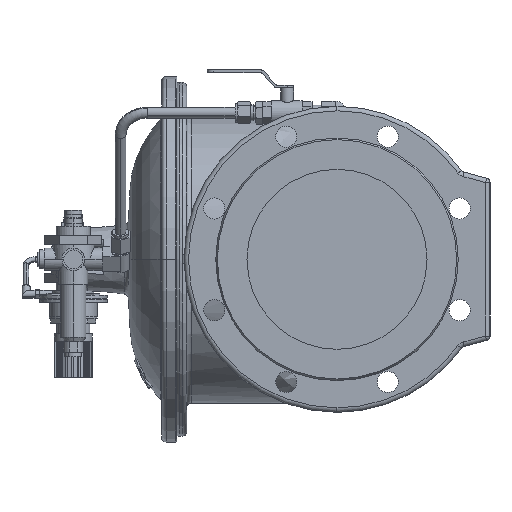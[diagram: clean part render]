
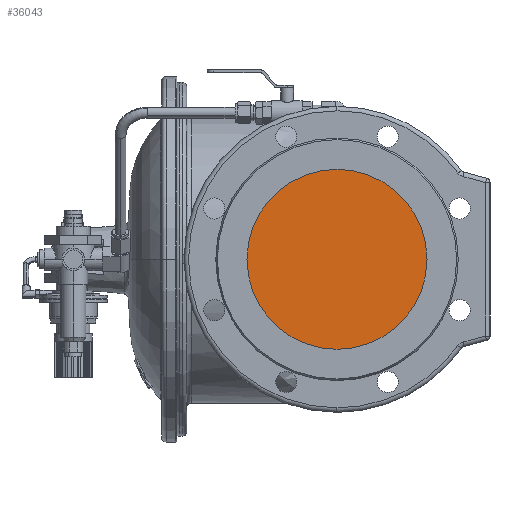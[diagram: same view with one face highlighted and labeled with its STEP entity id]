
A CAD part, left-side view. The second image highlights one B-rep face of the part: STEP entity #36043.
In plain terms, the highlighted planar face has unit normal (-1, 0, 0).
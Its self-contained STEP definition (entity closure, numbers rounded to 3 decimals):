
#3163 = EDGE_CURVE ( 'Defeatured_0_913+Defeatured_0_914+Defeatured_0_914+Defeatured_0_914', #6910, #30690, #17595, .T. ) ;
#4375 = ORIENTED_EDGE ( 'NONE', *, *, #27744, .T. ) ;
#6226 = CARTESIAN_POINT ( 'NONE',  ( -270., 0., 0. ) ) ;
#6402 = EDGE_LOOP ( 'NONE', ( #4375, #21336 ) ) ;
#6760 = CARTESIAN_POINT ( 'NONE',  ( -270., 0., 0. ) ) ;
#6910 = VERTEX_POINT ( 'NONE', #31944 ) ;
#11503 = AXIS2_PLACEMENT_3D ( 'NONE', #20842, #38459, #23632 ) ;
#11924 = DIRECTION ( 'NONE',  ( 0., -1., 0. ) ) ;
#14934 = FACE_OUTER_BOUND ( 'NONE', #6402, .T. ) ;
#17595 = CIRCLE ( 'NONE', #33386, 100. ) ;
#20842 = CARTESIAN_POINT ( 'NONE',  ( -270., 0., 0. ) ) ;
#21336 = ORIENTED_EDGE ( 'NONE', *, *, #3163, .T. ) ;
#23632 = DIRECTION ( 'NONE',  ( 0., -1., 0. ) ) ;
#23932 = AXIS2_PLACEMENT_3D ( 'NONE', #6226, #36313, #27218 ) ;
#24642 = PLANE ( 'NONE',  #23932 ) ;
#26562 = CARTESIAN_POINT ( 'NONE',  ( -270., 100., 0. ) ) ;
#27218 = DIRECTION ( 'NONE',  ( 0., -1., 0. ) ) ;
#27744 = EDGE_CURVE ( 'Defeatured_0_913+Defeatured_0_914+Defeatured_0_914+Defeatured_0_914', #30690, #6910, #28592, .T. ) ;
#28592 = CIRCLE ( 'NONE', #11503, 100. ) ;
#30690 = VERTEX_POINT ( 'NONE', #26562 ) ;
#31944 = CARTESIAN_POINT ( 'NONE',  ( -270., -100., 0. ) ) ;
#33386 = AXIS2_PLACEMENT_3D ( 'NONE', #6760, #36468, #11924 ) ;
#36043 = ADVANCED_FACE ( 'Defeatured_0_913', ( #14934 ), #24642, .T. ) ;
#36313 = DIRECTION ( 'NONE',  ( -1., 0., 0. ) ) ;
#36468 = DIRECTION ( 'NONE',  ( -1., 0., 0. ) ) ;
#38459 = DIRECTION ( 'NONE',  ( -1., 0., 0. ) ) ;
